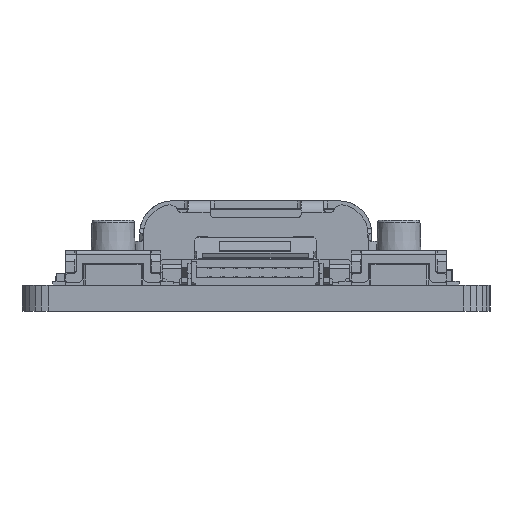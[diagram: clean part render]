
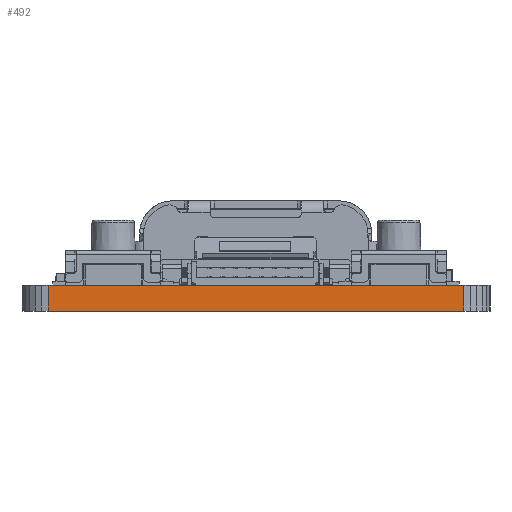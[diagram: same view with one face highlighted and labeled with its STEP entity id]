
A CAD part, front view. The second image highlights one B-rep face of the part: STEP entity #492.
In plain terms, the highlighted planar face has unit normal (0.001, -1, 0).
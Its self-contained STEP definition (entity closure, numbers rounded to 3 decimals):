
#123 = PLANE('',#124);
#124 = AXIS2_PLACEMENT_3D('',#125,#126,#127);
#125 = CARTESIAN_POINT('',(170.026,107.739,0.999));
#126 = DIRECTION('',(0.,0.,-1.));
#127 = DIRECTION('',(-1.,0.,0.));
#177 = PLANE('',#178);
#178 = AXIS2_PLACEMENT_3D('',#179,#180,#181);
#179 = CARTESIAN_POINT('',(170.026,107.739,0.));
#180 = DIRECTION('',(0.,0.,-1.));
#181 = DIRECTION('',(-1.,0.,0.));
#384 = PLANE('',#385);
#385 = AXIS2_PLACEMENT_3D('',#386,#387,#388);
#386 = CARTESIAN_POINT('',(170.739,107.026,0.));
#387 = DIRECTION('',(0.131,0.991,0.));
#388 = DIRECTION('',(0.991,-0.131,0.));
#422 = VERTEX_POINT('',#423);
#423 = CARTESIAN_POINT('',(171.,106.991,0.999));
#444 = EDGE_CURVE('',#445,#422,#447,.T.);
#445 = VERTEX_POINT('',#446);
#446 = CARTESIAN_POINT('',(171.,106.991,0.));
#447 = SURFACE_CURVE('',#448,(#452,#459),.PCURVE_S1.);
#448 = LINE('',#449,#450);
#449 = CARTESIAN_POINT('',(171.,106.991,0.));
#450 = VECTOR('',#451,1.);
#451 = DIRECTION('',(0.,0.,1.));
#452 = PCURVE('',#384,#453);
#453 = DEFINITIONAL_REPRESENTATION('',(#454),#458);
#454 = LINE('',#455,#456);
#455 = CARTESIAN_POINT('',(0.263,0.));
#456 = VECTOR('',#457,1.);
#457 = DIRECTION('',(0.,-1.));
#458 = ( GEOMETRIC_REPRESENTATION_CONTEXT(2) 
PARAMETRIC_REPRESENTATION_CONTEXT() REPRESENTATION_CONTEXT('2D SPACE',''
  ) );
#459 = PCURVE('',#460,#465);
#460 = PLANE('',#461);
#461 = AXIS2_PLACEMENT_3D('',#462,#463,#464);
#462 = CARTESIAN_POINT('',(171.,106.991,0.));
#463 = DIRECTION('',(-0.001,1.,0.));
#464 = DIRECTION('',(1.,0.001,0.));
#465 = DEFINITIONAL_REPRESENTATION('',(#466),#470);
#466 = LINE('',#467,#468);
#467 = CARTESIAN_POINT('',(0.,0.));
#468 = VECTOR('',#469,1.);
#469 = DIRECTION('',(0.,-1.));
#470 = ( GEOMETRIC_REPRESENTATION_CONTEXT(2) 
PARAMETRIC_REPRESENTATION_CONTEXT() REPRESENTATION_CONTEXT('2D SPACE',''
  ) );
#492 = ADVANCED_FACE('',(#493),#460,.F.);
#493 = FACE_BOUND('',#494,.F.);
#494 = EDGE_LOOP('',(#495,#496,#519,#547));
#495 = ORIENTED_EDGE('',*,*,#444,.T.);
#496 = ORIENTED_EDGE('',*,*,#497,.T.);
#497 = EDGE_CURVE('',#422,#498,#500,.T.);
#498 = VERTEX_POINT('',#499);
#499 = CARTESIAN_POINT('',(187.,107.,0.999));
#500 = SURFACE_CURVE('',#501,(#505,#512),.PCURVE_S1.);
#501 = LINE('',#502,#503);
#502 = CARTESIAN_POINT('',(171.,106.991,0.999));
#503 = VECTOR('',#504,1.);
#504 = DIRECTION('',(1.,0.001,0.));
#505 = PCURVE('',#460,#506);
#506 = DEFINITIONAL_REPRESENTATION('',(#507),#511);
#507 = LINE('',#508,#509);
#508 = CARTESIAN_POINT('',(0.,-0.999));
#509 = VECTOR('',#510,1.);
#510 = DIRECTION('',(1.,0.));
#511 = ( GEOMETRIC_REPRESENTATION_CONTEXT(2) 
PARAMETRIC_REPRESENTATION_CONTEXT() REPRESENTATION_CONTEXT('2D SPACE',''
  ) );
#512 = PCURVE('',#123,#513);
#513 = DEFINITIONAL_REPRESENTATION('',(#514),#518);
#514 = LINE('',#515,#516);
#515 = CARTESIAN_POINT('',(-0.974,-0.748));
#516 = VECTOR('',#517,1.);
#517 = DIRECTION('',(-1.,0.001));
#518 = ( GEOMETRIC_REPRESENTATION_CONTEXT(2) 
PARAMETRIC_REPRESENTATION_CONTEXT() REPRESENTATION_CONTEXT('2D SPACE',''
  ) );
#519 = ORIENTED_EDGE('',*,*,#520,.F.);
#520 = EDGE_CURVE('',#521,#498,#523,.T.);
#521 = VERTEX_POINT('',#522);
#522 = CARTESIAN_POINT('',(187.,107.,0.));
#523 = SURFACE_CURVE('',#524,(#528,#535),.PCURVE_S1.);
#524 = LINE('',#525,#526);
#525 = CARTESIAN_POINT('',(187.,107.,0.));
#526 = VECTOR('',#527,1.);
#527 = DIRECTION('',(0.,0.,1.));
#528 = PCURVE('',#460,#529);
#529 = DEFINITIONAL_REPRESENTATION('',(#530),#534);
#530 = LINE('',#531,#532);
#531 = CARTESIAN_POINT('',(16.,0.));
#532 = VECTOR('',#533,1.);
#533 = DIRECTION('',(0.,-1.));
#534 = ( GEOMETRIC_REPRESENTATION_CONTEXT(2) 
PARAMETRIC_REPRESENTATION_CONTEXT() REPRESENTATION_CONTEXT('2D SPACE',''
  ) );
#535 = PCURVE('',#536,#541);
#536 = PLANE('',#537);
#537 = AXIS2_PLACEMENT_3D('',#538,#539,#540);
#538 = CARTESIAN_POINT('',(187.,107.,0.));
#539 = DIRECTION('',(-0.098,0.995,0.));
#540 = DIRECTION('',(0.995,0.098,0.));
#541 = DEFINITIONAL_REPRESENTATION('',(#542),#546);
#542 = LINE('',#543,#544);
#543 = CARTESIAN_POINT('',(0.,0.));
#544 = VECTOR('',#545,1.);
#545 = DIRECTION('',(0.,-1.));
#546 = ( GEOMETRIC_REPRESENTATION_CONTEXT(2) 
PARAMETRIC_REPRESENTATION_CONTEXT() REPRESENTATION_CONTEXT('2D SPACE',''
  ) );
#547 = ORIENTED_EDGE('',*,*,#548,.F.);
#548 = EDGE_CURVE('',#445,#521,#549,.T.);
#549 = SURFACE_CURVE('',#550,(#554,#561),.PCURVE_S1.);
#550 = LINE('',#551,#552);
#551 = CARTESIAN_POINT('',(171.,106.991,0.));
#552 = VECTOR('',#553,1.);
#553 = DIRECTION('',(1.,0.001,0.));
#554 = PCURVE('',#460,#555);
#555 = DEFINITIONAL_REPRESENTATION('',(#556),#560);
#556 = LINE('',#557,#558);
#557 = CARTESIAN_POINT('',(0.,0.));
#558 = VECTOR('',#559,1.);
#559 = DIRECTION('',(1.,0.));
#560 = ( GEOMETRIC_REPRESENTATION_CONTEXT(2) 
PARAMETRIC_REPRESENTATION_CONTEXT() REPRESENTATION_CONTEXT('2D SPACE',''
  ) );
#561 = PCURVE('',#177,#562);
#562 = DEFINITIONAL_REPRESENTATION('',(#563),#567);
#563 = LINE('',#564,#565);
#564 = CARTESIAN_POINT('',(-0.974,-0.748));
#565 = VECTOR('',#566,1.);
#566 = DIRECTION('',(-1.,0.001));
#567 = ( GEOMETRIC_REPRESENTATION_CONTEXT(2) 
PARAMETRIC_REPRESENTATION_CONTEXT() REPRESENTATION_CONTEXT('2D SPACE',''
  ) );
